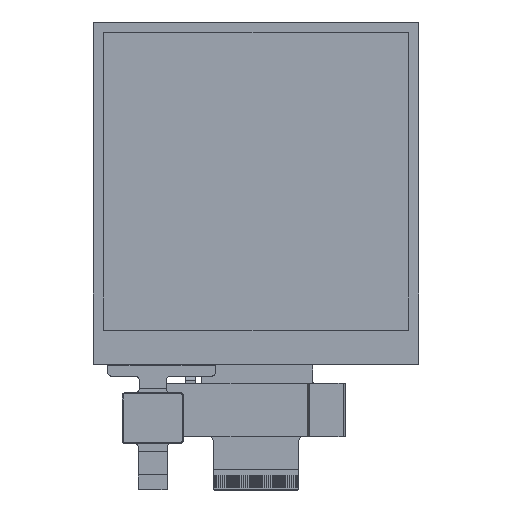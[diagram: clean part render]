
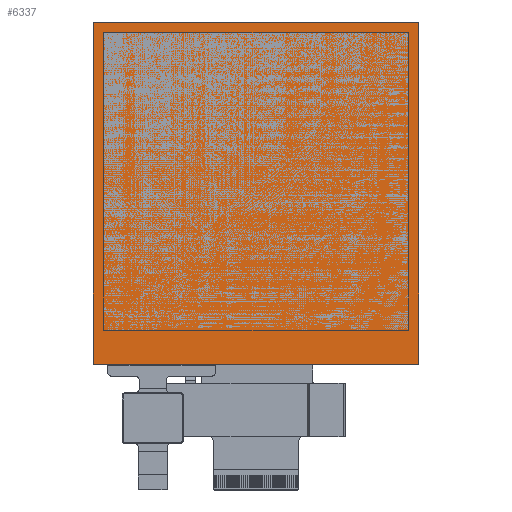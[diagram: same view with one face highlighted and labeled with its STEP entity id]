
A CAD part, top view. The second image highlights one B-rep face of the part: STEP entity #6337.
In plain terms, the highlighted planar face has unit normal (0, 0, 1).
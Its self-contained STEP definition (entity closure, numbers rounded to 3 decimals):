
#66 = EDGE_CURVE ( 'NONE', #11693, #14167, #3894, .T. ) ;
#988 = VERTEX_POINT ( 'NONE', #5589 ) ;
#1558 = EDGE_CURVE ( 'NONE', #17159, #16286, #6207, .T. ) ;
#1841 = CARTESIAN_POINT ( 'NONE',  ( -2.677, 51.775, 27.126 ) ) ;
#2668 = VECTOR ( 'NONE', #3659, 1000. ) ;
#2837 = AXIS2_PLACEMENT_3D ( 'NONE', #16367, #6070, #14903 ) ;
#2873 = PLANE ( 'NONE',  #2837 ) ;
#3004 = LINE ( 'NONE', #9225, #14795 ) ;
#3472 = CARTESIAN_POINT ( 'NONE',  ( -2.377, -29.761, 27.126 ) ) ;
#3659 = DIRECTION ( 'NONE',  ( 0., 1., 0. ) ) ;
#3894 = LINE ( 'NONE', #15357, #14855 ) ;
#4049 = CARTESIAN_POINT ( 'NONE',  ( -79.933, 51.775, 27.126 ) ) ;
#4360 = CARTESIAN_POINT ( 'NONE',  ( -79.933, -30.061, 27.126 ) ) ;
#4411 = EDGE_LOOP ( 'NONE', ( #11715, #9084, #14879, #10226, #7430, #15435, #9342, #16520 ) ) ;
#4928 = EDGE_CURVE ( 'NONE', #988, #5694, #10853, .T. ) ;
#5508 = EDGE_CURVE ( 'NONE', #5694, #17159, #15397, .T. ) ;
#5546 = EDGE_CURVE ( 'NONE', #14167, #988, #18747, .T. ) ;
#5589 = CARTESIAN_POINT ( 'NONE',  ( -2.377, -29.761, 27.126 ) ) ;
#5694 = VERTEX_POINT ( 'NONE', #17979 ) ;
#5943 = DIRECTION ( 'NONE',  ( 0., 0., 1. ) ) ;
#5998 = DIRECTION ( 'NONE',  ( 0., -1., 0. ) ) ;
#6070 = DIRECTION ( 'NONE',  ( 0., 0., 1. ) ) ;
#6207 = LINE ( 'NONE', #1841, #9152 ) ;
#6337 = ADVANCED_FACE ( 'NONE', ( #9087 ), #2873, .T. ) ;
#6602 = AXIS2_PLACEMENT_3D ( 'NONE', #10694, #12512, #15162 ) ;
#6664 = AXIS2_PLACEMENT_3D ( 'NONE', #14878, #10418, #13315 ) ;
#7430 = ORIENTED_EDGE ( 'NONE', *, *, #1558, .T. ) ;
#7751 = DIRECTION ( 'NONE',  ( -1., 0., 0. ) ) ;
#8335 = AXIS2_PLACEMENT_3D ( 'NONE', #11680, #10142, #16446 ) ;
#8413 = EDGE_CURVE ( 'NONE', #16286, #14718, #12363, .T. ) ;
#8736 = EDGE_CURVE ( 'NONE', #14718, #16317, #3004, .T. ) ;
#9084 = ORIENTED_EDGE ( 'NONE', *, *, #5546, .T. ) ;
#9087 = FACE_OUTER_BOUND ( 'NONE', #4411, .T. ) ;
#9152 = VECTOR ( 'NONE', #7751, 1000. ) ;
#9225 = CARTESIAN_POINT ( 'NONE',  ( -80.233, 51.475, 27.126 ) ) ;
#9342 = ORIENTED_EDGE ( 'NONE', *, *, #8736, .T. ) ;
#9978 = CARTESIAN_POINT ( 'NONE',  ( -80.233, -29.761, 27.126 ) ) ;
#10142 = DIRECTION ( 'NONE',  ( 0., 0., 1. ) ) ;
#10226 = ORIENTED_EDGE ( 'NONE', *, *, #5508, .T. ) ;
#10418 = DIRECTION ( 'NONE',  ( 0., 0., 1. ) ) ;
#10694 = CARTESIAN_POINT ( 'NONE',  ( -79.933, -29.761, 27.126 ) ) ;
#10853 = LINE ( 'NONE', #3472, #2668 ) ;
#10964 = CARTESIAN_POINT ( 'NONE',  ( -2.677, -30.061, 27.126 ) ) ;
#11183 = CARTESIAN_POINT ( 'NONE',  ( -2.677, 51.775, 27.126 ) ) ;
#11680 = CARTESIAN_POINT ( 'NONE',  ( -79.933, 51.475, 27.126 ) ) ;
#11693 = VERTEX_POINT ( 'NONE', #4360 ) ;
#11715 = ORIENTED_EDGE ( 'NONE', *, *, #66, .T. ) ;
#11857 = DIRECTION ( 'NONE',  ( 0., -1., 0. ) ) ;
#12363 = CIRCLE ( 'NONE', #8335, 0.3 ) ;
#12512 = DIRECTION ( 'NONE',  ( 0., 0., 1. ) ) ;
#13315 = DIRECTION ( 'NONE',  ( 1., 0., 0. ) ) ;
#14167 = VERTEX_POINT ( 'NONE', #10964 ) ;
#14718 = VERTEX_POINT ( 'NONE', #17890 ) ;
#14733 = AXIS2_PLACEMENT_3D ( 'NONE', #19040, #5943, #11857 ) ;
#14795 = VECTOR ( 'NONE', #5998, 1000. ) ;
#14855 = VECTOR ( 'NONE', #17183, 1000. ) ;
#14878 = CARTESIAN_POINT ( 'NONE',  ( -2.677, 51.475, 27.126 ) ) ;
#14879 = ORIENTED_EDGE ( 'NONE', *, *, #4928, .T. ) ;
#14903 = DIRECTION ( 'NONE',  ( 1., 0., 0. ) ) ;
#15162 = DIRECTION ( 'NONE',  ( -1., 0., 0. ) ) ;
#15357 = CARTESIAN_POINT ( 'NONE',  ( -79.933, -30.061, 27.126 ) ) ;
#15397 = CIRCLE ( 'NONE', #6664, 0.3 ) ;
#15402 = EDGE_CURVE ( 'NONE', #16317, #11693, #17150, .T. ) ;
#15435 = ORIENTED_EDGE ( 'NONE', *, *, #8413, .T. ) ;
#16286 = VERTEX_POINT ( 'NONE', #4049 ) ;
#16317 = VERTEX_POINT ( 'NONE', #9978 ) ;
#16367 = CARTESIAN_POINT ( 'NONE',  ( -39.315, 10.857, 27.126 ) ) ;
#16446 = DIRECTION ( 'NONE',  ( 0., 1., 0. ) ) ;
#16520 = ORIENTED_EDGE ( 'NONE', *, *, #15402, .T. ) ;
#17150 = CIRCLE ( 'NONE', #6602, 0.3 ) ;
#17159 = VERTEX_POINT ( 'NONE', #11183 ) ;
#17183 = DIRECTION ( 'NONE',  ( 1., 0., 0. ) ) ;
#17890 = CARTESIAN_POINT ( 'NONE',  ( -80.233, 51.475, 27.126 ) ) ;
#17979 = CARTESIAN_POINT ( 'NONE',  ( -2.377, 51.475, 27.126 ) ) ;
#18747 = CIRCLE ( 'NONE', #14733, 0.3 ) ;
#19040 = CARTESIAN_POINT ( 'NONE',  ( -2.677, -29.761, 27.126 ) ) ;
